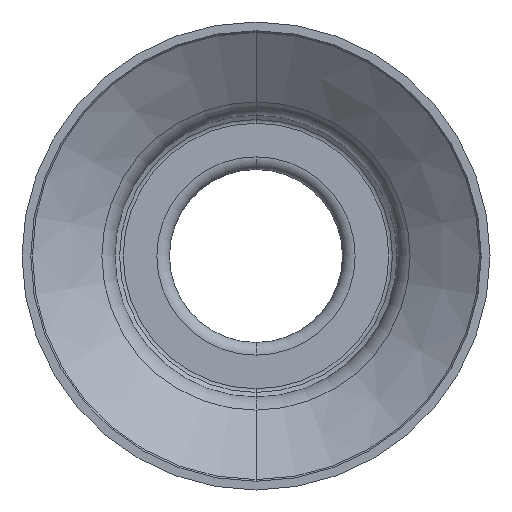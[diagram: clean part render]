
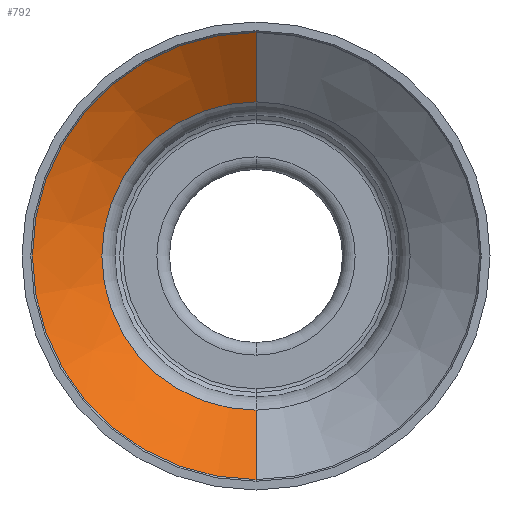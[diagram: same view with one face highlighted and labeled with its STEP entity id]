
A CAD part, front view. The second image highlights one B-rep face of the part: STEP entity #792.
In plain terms, the highlighted conical face has half-angle 54.189 degrees and reference radius 9.717 mm.
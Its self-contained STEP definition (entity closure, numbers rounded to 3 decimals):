
#7 = CIRCLE ( 'NONE', #465, 14.095 ) ;
#13 = DIRECTION ( 'NONE',  ( 0., 0., 1. ) ) ;
#32 = CARTESIAN_POINT ( 'NONE',  ( 0., -44.547, -14.095 ) ) ;
#132 = EDGE_CURVE ( 'NONE', #254, #1731, #2267, .T. ) ;
#211 = EDGE_CURVE ( 'NONE', #2245, #1731, #7, .T. ) ;
#254 = VERTEX_POINT ( 'NONE', #844 ) ;
#293 = AXIS2_PLACEMENT_3D ( 'NONE', #1537, #1546, #1729 ) ;
#465 = AXIS2_PLACEMENT_3D ( 'NONE', #1505, #2636, #626 ) ;
#481 = ORIENTED_EDGE ( 'NONE', *, *, #132, .T. ) ;
#626 = DIRECTION ( 'NONE',  ( 0., 0., 1. ) ) ;
#634 = VECTOR ( 'NONE', #2787, 1000. ) ;
#727 = EDGE_CURVE ( 'NONE', #2308, #254, #1595, .T. ) ;
#792 = ADVANCED_FACE ( 'NONE', ( #1289 ), #2271, .F. ) ;
#844 = CARTESIAN_POINT ( 'NONE',  ( 0., -41.389, 9.717 ) ) ;
#857 = DIRECTION ( 'NONE',  ( 0., -0.585, -0.811 ) ) ;
#1052 = ORIENTED_EDGE ( 'NONE', *, *, #727, .T. ) ;
#1171 = CARTESIAN_POINT ( 'NONE',  ( 0., -44.547, 14.095 ) ) ;
#1289 = FACE_OUTER_BOUND ( 'NONE', #2027, .T. ) ;
#1455 = EDGE_CURVE ( 'NONE', #2308, #2245, #2053, .T. ) ;
#1505 = CARTESIAN_POINT ( 'NONE',  ( 0., -44.547, 0. ) ) ;
#1537 = CARTESIAN_POINT ( 'NONE',  ( 0., -41.389, 0. ) ) ;
#1546 = DIRECTION ( 'NONE',  ( 0., -1., 0. ) ) ;
#1595 = CIRCLE ( 'NONE', #2051, 9.717 ) ;
#1697 = ORIENTED_EDGE ( 'NONE', *, *, #211, .F. ) ;
#1729 = DIRECTION ( 'NONE',  ( 0., 0., -1. ) ) ;
#1731 = VERTEX_POINT ( 'NONE', #1171 ) ;
#1743 = DIRECTION ( 'NONE',  ( 0., 1., 0. ) ) ;
#1951 = CARTESIAN_POINT ( 'NONE',  ( 0., -41.389, -9.717 ) ) ;
#2027 = EDGE_LOOP ( 'NONE', ( #1052, #481, #1697, #2288 ) ) ;
#2051 = AXIS2_PLACEMENT_3D ( 'NONE', #2193, #1743, #13 ) ;
#2053 = LINE ( 'NONE', #1951, #2189 ) ;
#2189 = VECTOR ( 'NONE', #857, 1000. ) ;
#2193 = CARTESIAN_POINT ( 'NONE',  ( 0., -41.389, 0. ) ) ;
#2201 = CARTESIAN_POINT ( 'NONE',  ( 0., -41.389, -9.717 ) ) ;
#2245 = VERTEX_POINT ( 'NONE', #32 ) ;
#2267 = LINE ( 'NONE', #2346, #634 ) ;
#2271 = CONICAL_SURFACE ( 'NONE', #293, 9.717, 0.946 ) ;
#2288 = ORIENTED_EDGE ( 'NONE', *, *, #1455, .F. ) ;
#2308 = VERTEX_POINT ( 'NONE', #2201 ) ;
#2346 = CARTESIAN_POINT ( 'NONE',  ( 0., -41.389, 9.717 ) ) ;
#2636 = DIRECTION ( 'NONE',  ( 0., 1., 0. ) ) ;
#2787 = DIRECTION ( 'NONE',  ( 0., -0.585, 0.811 ) ) ;
